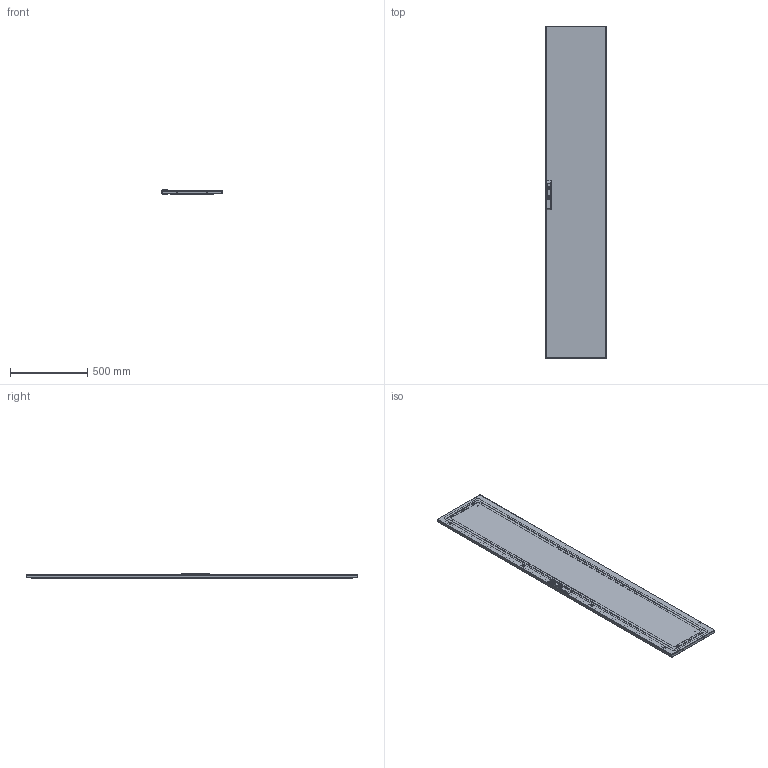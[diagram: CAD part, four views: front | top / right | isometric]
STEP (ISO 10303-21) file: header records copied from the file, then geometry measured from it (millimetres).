
FILE_DESCRIPTION(('CAx-IF Rec.Pracs.---Model Styling and Organization---1.2---2011-12-15','CAx-IF Rec.Pracs.---Geometric and Assembly Validation Properties---4.1---2014-06-16','CAx-IF Rec.Pracs.---PMI Polyline Presentation---2.0---2013-05-24'),'2;1');
FILE_NAME('R5CPE2240.stp','2021-05-06T05:56:51+03:00',(''),(''),'STEP Interface 4.4 by CT CoreTechnologie','3D_Evolution4.4 by CT CoreTechnologie','');
FILE_SCHEMA(('AUTOMOTIVE_DESIGN { 1 0 10303 214 1 1 1 1 }'));
Length unit declared in the file: millimetre
Products named in the file (25): R5CPE2240; Door frame TP CPE_TP2240; Door frame tube_400 (QB02C227); AC00C183; Door frame tube_2200 (QB02C225); AC00C184_AC00C184; M6-DIN 985 (ISO 10511) (CM250600)_stright; AC00C112; RB.0528.01.00.0 ÑÁ_-23; RB.0528.01.01.0_-23; PF 7x14 CPE_2200x0400; AC00C720; AC00C061_AC00C061; Handle bar 2200_closed; AC00C387; AC00C366_AC00C366; AC00C376; AC00C400; 4.2x13 DIN 7981_stright; BOX13-RU_closed; AC00C506-RU_AC00C506-R; AC00C505-RU_AC00C505-R; A7100032-R-RU_mounted; AC00C388_AC00C388; AC00C390_AC00C390
Assembly tree (53 placements, depth 3):
  R5CPE2240
    Door frame TP CPE_TP2240
      Door frame tube_400 (QB02C227)  x2
      AC00C183  x4
      Door frame tube_2200 (QB02C225)  x2
      AC00C184_AC00C184  x8
    M6-DIN 985 (ISO 10511) (CM250600)_stright  x4
    AC00C112  x4
    RB.0528.01.00.0 ÑÁ_-23
      RB.0528.01.01.0_-23
      PF 7x14 CPE_2200x0400
      AC00C720  x4
      AC00C061_AC00C061  x2
    Handle bar 2200_closed
      AC00C387
      AC00C366_AC00C366
      AC00C376
      AC00C400  x4
      4.2x13 DIN 7981_stright  x2
    BOX13-RU_closed
      AC00C506-RU_AC00C506-R
      AC00C505-RU_AC00C505-R
      A7100032-R-RU_mounted
      AC00C388_AC00C388
    AC00C390_AC00C390  x2
    4.2x13 DIN 7981_stright  x2
Bounding box: 394 x 2155 x 35.01 mm (x, y, z)
Surface area: 2859768 mm2 (no closed solid volume)
Topology: 0 solids, 87 shells, 1911 faces, 4889 edges, 3152 vertices
Faces by surface type: plane 922, cylinder 825, bspline 164
Entity records: 32812 total; most frequent: CARTESIAN_POINT 7991, DIRECTION 4962, ORIENTED_EDGE 4674, EDGE_CURVE 2337, AXIS2_PLACEMENT_3D 1797, VERTEX_POINT 1525, VECTOR 1368, LINE 1368
